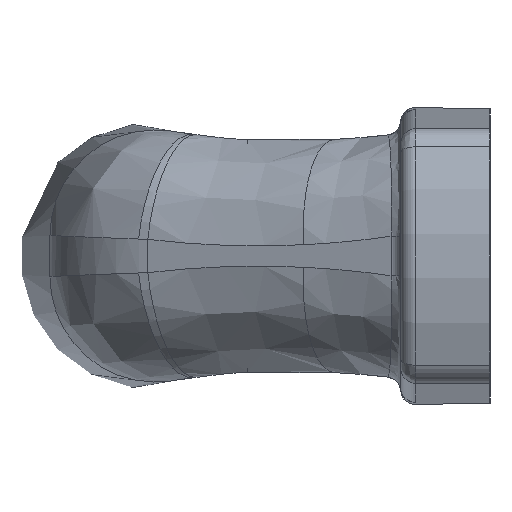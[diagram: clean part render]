
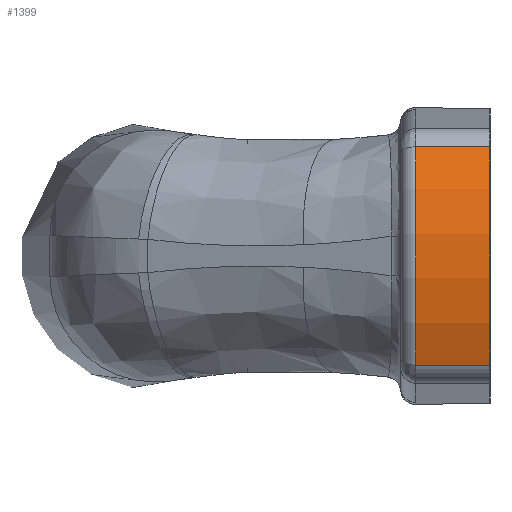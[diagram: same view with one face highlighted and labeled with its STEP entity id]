
A CAD part, left-side view. The second image highlights one B-rep face of the part: STEP entity #1399.
In plain terms, the highlighted cylindrical face has radius 19.062 mm (diameter 38.125 mm), a partial arc.
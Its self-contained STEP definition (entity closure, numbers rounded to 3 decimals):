
#89=CYLINDRICAL_SURFACE('',#1532,19.063);
#159=FACE_OUTER_BOUND('',#253,.T.);
#253=EDGE_LOOP('',(#1145,#1146,#1147,#1148));
#389=LINE('',#3050,#445);
#391=LINE('',#3056,#447);
#445=VECTOR('',#1811,5.);
#447=VECTOR('',#1817,5.);
#514=CIRCLE('',#1522,19.063);
#522=CIRCLE('',#1533,19.063);
#614=VERTEX_POINT('',#2863);
#616=VERTEX_POINT('',#2869);
#630=VERTEX_POINT('',#3049);
#632=VERTEX_POINT('',#3055);
#792=EDGE_CURVE('',#614,#616,#514,.T.);
#811=EDGE_CURVE('',#616,#630,#389,.T.);
#814=EDGE_CURVE('',#632,#614,#391,.T.);
#815=EDGE_CURVE('',#630,#632,#522,.T.);
#1145=ORIENTED_EDGE('',*,*,#792,.F.);
#1146=ORIENTED_EDGE('',*,*,#814,.F.);
#1147=ORIENTED_EDGE('',*,*,#815,.F.);
#1148=ORIENTED_EDGE('',*,*,#811,.F.);
#1399=ADVANCED_FACE('',(#159),#89,.T.);
#1522=AXIS2_PLACEMENT_3D('',#2873,#1791,#1792);
#1532=AXIS2_PLACEMENT_3D('',#3054,#1815,#1816);
#1533=AXIS2_PLACEMENT_3D('',#3057,#1818,#1819);
#1791=DIRECTION('center_axis',(0.,1.,0.));
#1792=DIRECTION('ref_axis',(-1.,0.,0.));
#1811=DIRECTION('',(0.,-1.,0.));
#1815=DIRECTION('center_axis',(0.,-1.,0.));
#1816=DIRECTION('ref_axis',(0.895,0.,0.446));
#1817=DIRECTION('',(0.,1.,0.));
#1818=DIRECTION('center_axis',(0.,-1.,0.));
#1819=DIRECTION('ref_axis',(0.895,0.,0.446));
#2863=CARTESIAN_POINT('',(1.472,5.,-7.344));
#2869=CARTESIAN_POINT('',(1.472,5.,7.344));
#2873=CARTESIAN_POINT('Origin',(19.063,5.,0.));
#3049=CARTESIAN_POINT('',(1.472,0.,7.344));
#3050=CARTESIAN_POINT('',(1.472,6.,7.344));
#3054=CARTESIAN_POINT('Origin',(19.063,6.,0.));
#3055=CARTESIAN_POINT('',(1.472,0.,-7.344));
#3056=CARTESIAN_POINT('',(1.472,6.,-7.344));
#3057=CARTESIAN_POINT('Origin',(19.063,0.,0.));
